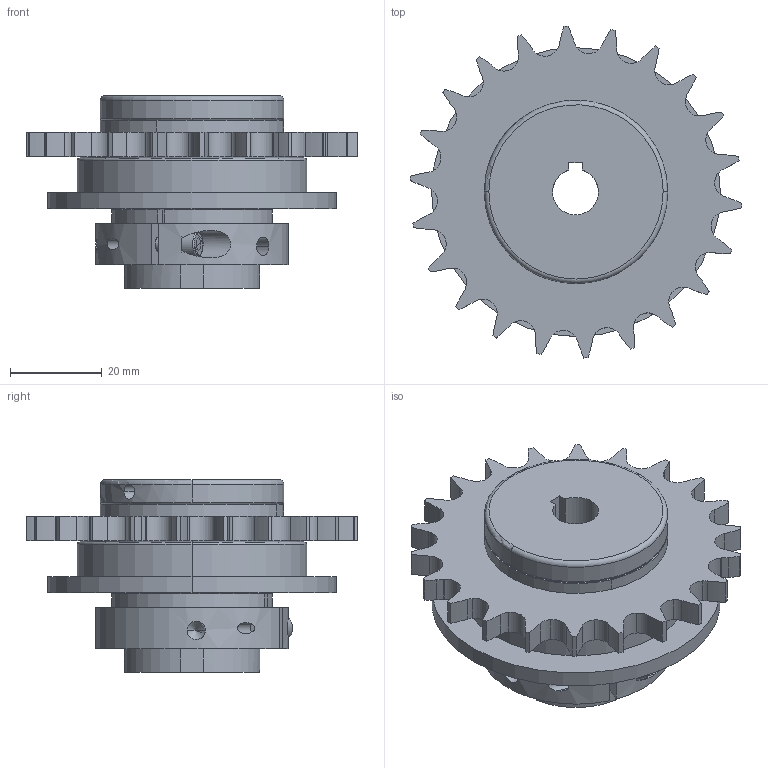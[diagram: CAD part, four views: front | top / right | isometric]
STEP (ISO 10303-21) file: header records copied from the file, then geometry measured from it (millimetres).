
FILE_DESCRIPTION(('STEP AP214'),'1');
FILE_NAME('0_50_edf_f_c_d10-a1_t1.stp','2024-04-16T11:23:09',('TraceParts'),('TraceParts S.A.'),'Spatial InterOp 3D',' ',' ');
FILE_SCHEMA(('AUTOMOTIVE_DESIGN { 1 0 10303 214 1 1 1 1 }'));
Length unit declared in the file: millimetre
Products named in the file (1): 0_50_edf_f_c_d10-a1_t1
Bounding box: 72.31 x 72.4 x 42 mm (x, y, z)
Volume: 64433.4 mm3; surface area: 29086.6 mm2
Topology: 2 solids, 2 shells, 299 faces, 883 edges, 577 vertices
Faces by surface type: cylinder 187, plane 72, cone 26, torus 14
Entity records: 14312 total; most frequent: CARTESIAN_POINT 2417, DIRECTION 1876, ORIENTED_EDGE 1742, EDGE_CURVE 871, AXIS2_PLACEMENT_3D 742, PRESENTATION_STYLE_ASSIGNMENT 592, COLOUR_RGB 592, VERTEX_POINT 577
